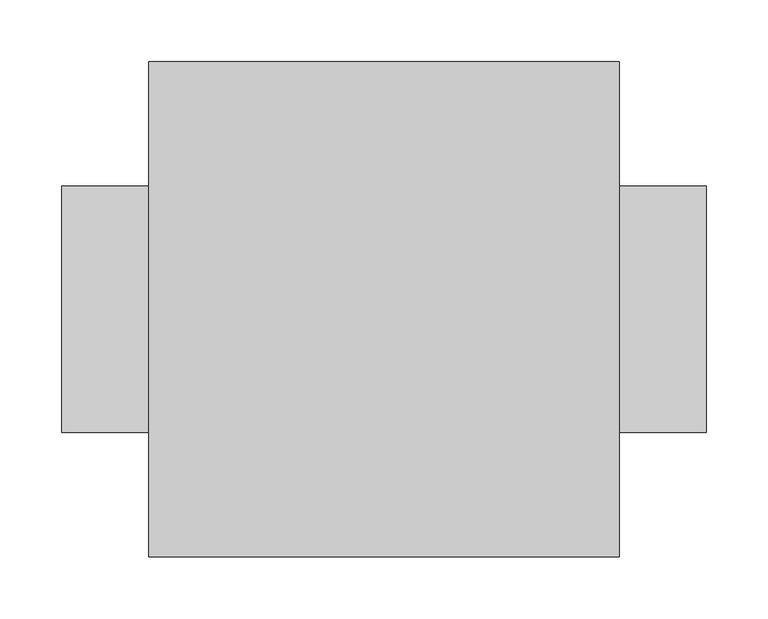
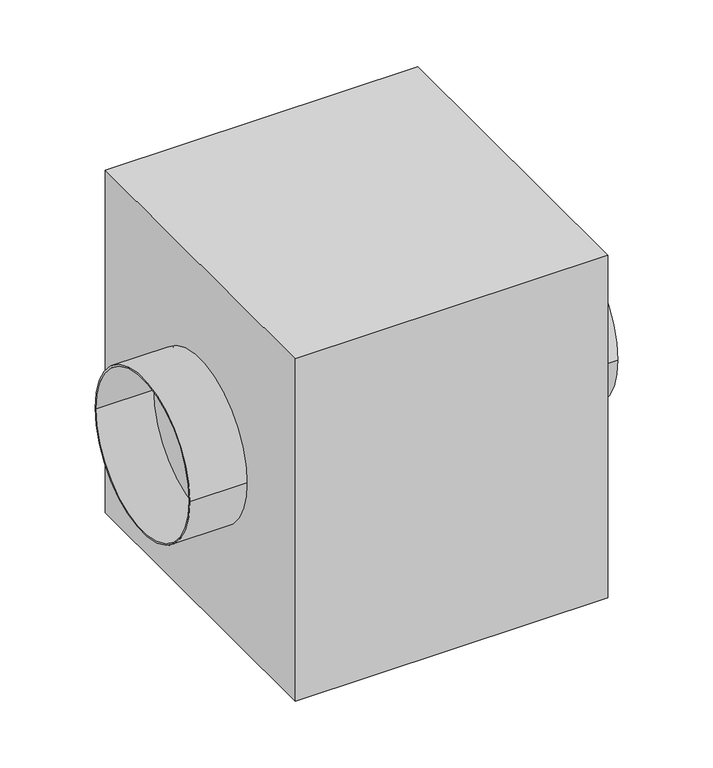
"""IFC4 building model written with IfcOpenShell, lengths in millimetres: proxy geometry, СВ_Вентилятор_КанальныйКруглый_DN100-315_SVK-SVKH : SVKH-200."""

from ifc_helpers import new_model, si_unit, point, frame, origin, origin_2d, place, context, project, spatial, polyline, circle_curve, trimmed, segment, composite_curve, outline, extrude, source, transform, mapped, element, save


def mechanical_equipment_2d8e173d(model_context):
    return source(origin(), model_context, "Body", "SweptSolid", [
        extrude(outline(polyline([(190.0, -200.0), (-190.0, -200.0), (-190.0, 200.0), (190.0, 200.0), (190.0, -200.0)])), frame((0.0, 0.0, -220.0), z_axis=(0.0, 0.0, 1.0), x_axis=(1.0, 0.0, 0.0)), (0.0, 0.0, 1.0), 440.0),
        extrude(outline(composite_curve([segment(trimmed(circle_curve(origin_2d(), 99.5), [point((-99.5, 0.0))], [point((99.5, 0.0))], False, "CARTESIAN"), True, "CONTINUOUS"), segment(trimmed(circle_curve(origin_2d(), 99.5), [point((99.5, 0.0))], [point((-99.5, 0.0))], False, "CARTESIAN"), True, "CONTINUOUS")], self_intersect=False), holes=[composite_curve([segment(trimmed(circle_curve(origin_2d(), 97.5), [point((-97.5, 0.0))], [point((97.5, 0.0))], True, "CARTESIAN"), True, "CONTINUOUS"), segment(trimmed(circle_curve(origin_2d(), 97.5), [point((97.5, 0.0))], [point((-97.5, 0.0))], True, "CARTESIAN"), True, "CONTINUOUS")], self_intersect=False)]), frame((-260.0, 0.0, 0.0), z_axis=(1.0, 0.0, 0.0), x_axis=(0.0, 1.0, 0.0)), (0.0, 0.0, 1.0), 70.0),
        extrude(outline(composite_curve([segment(trimmed(circle_curve(origin_2d(), 99.5), [point((-99.5, 0.0))], [point((99.5, 0.0))], False, "CARTESIAN"), True, "CONTINUOUS"), segment(trimmed(circle_curve(origin_2d(), 99.5), [point((99.5, 0.0))], [point((-99.5, 0.0))], False, "CARTESIAN"), True, "CONTINUOUS")], self_intersect=False), holes=[composite_curve([segment(trimmed(circle_curve(origin_2d(), 97.5), [point((-97.5, 0.0))], [point((97.5, 0.0))], True, "CARTESIAN"), True, "CONTINUOUS"), segment(trimmed(circle_curve(origin_2d(), 97.5), [point((97.5, 0.0))], [point((-97.5, 0.0))], True, "CARTESIAN"), True, "CONTINUOUS")], self_intersect=False)]), frame((190.0, 0.0, 0.0), z_axis=(1.0, 0.0, 0.0), x_axis=(0.0, 1.0, 0.0)), (0.0, 0.0, 1.0), 70.0),
    ])


if __name__ == "__main__":
    model = new_model("IFC4")
    model_context = context("Model", 3, world=origin())
    ifc_project = project(units=[si_unit("LENGTHUNIT", "METRE", prefix="MILLI")], contexts=[model_context])
    site = spatial("IfcSite", under=ifc_project)
    building = spatial("IfcBuilding", under=site)
    placement = place(None, origin())
    mechanical_equipment_shape = mechanical_equipment_2d8e173d(model_context)
    element("IfcBuildingElementProxy", 1, Name="СВ_Вентилятор_КанальныйКруглый_DN100-315_SVK-SVKH : SVKH-200", ObjectType="СВ_Вентилятор_КанальныйКруглый_DN100-315_SVK-SVKH : SVKH-200", at=placement, inside=building, context=model_context, shape_type="MappedRepresentation", body=[
        mapped(mechanical_equipment_shape, transform((0.0, 0.0, 0.0), x_axis=(1.0, 0.0, 0.0), y_axis=(0.0, 1.0, 0.0), z_axis=(0.0, 0.0, 1.0))),
    ])
    save(model, "model.ifc")
